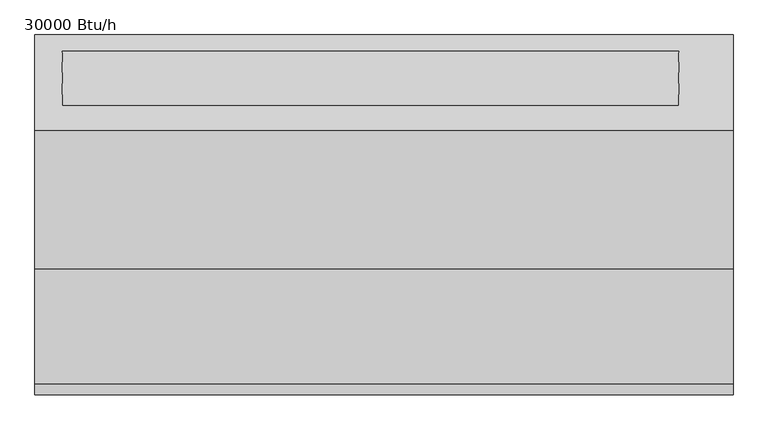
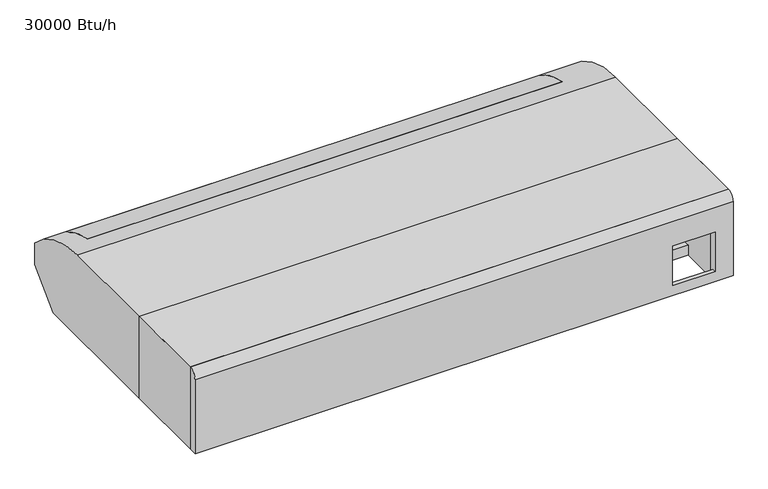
"""IFC4 building model written with IfcOpenShell, lengths in millimetres: proxy geometry, Lennox-VRF-Ceiling_Floor_Mount-VCFA-2P_Series : 30000 Btu/h."""

from ifc_helpers import new_model, si_unit, point, frame, frame_2d, origin, place, context, project, spatial, polyline, circle_curve, trimmed, segment, composite_curve, outline, extrude, faceted_brep, source, transform, mapped, element, save
from ifc_brep_helpers import plane_surface, cylinder_surface, advanced_brep


def proxy_30000_btu_h_688ba176(model_context):
    return source(origin(), model_context, "Body", "SolidModel", [
        faceted_brep([(640.0, 230.0, 206.0), (640.0, 20.0, 206.0), (640.0, 20.0, 0.0), (640.0, 230.0, 0.0), (-640.0, 230.0, 206.0), (-640.0, 230.0, 0.0), (-640.0, 20.0, 0.0), (-640.0, 20.0, 206.0), (497.0, 20.0, 0.0), (497.0, 20.0, 125.0), (597.0, 20.0, 125.0), (597.0, 20.0, 0.0), (597.0, 110.0, 0.0), (497.0, 110.0, 0.0), (497.0, 184.8703415, 125.0), (597.0, 184.8703415, 125.0), (597.0, 110.0, 25.0), (497.0, 110.0, 25.0), (497.0, 184.8703415, 25.0), (597.0, 184.8703415, 25.0)], [[[0, 1, 2, 3]], [[4, 5, 6, 7]], [[1, 0, 4, 7]], [[2, 1, 7, 6, 8, 9, 10, 11]], [[3, 2, 11, 12, 13, 8, 6, 5]], [[0, 3, 5, 4]], [[10, 9, 14, 15]], [[13, 12, 16, 17]], [[14, 9, 8, 13, 17, 18]], [[10, 15, 19, 16, 12, 11]], [[15, 14, 18, 19]], [[19, 18, 17, 16]]]),
        extrude(outline(composite_curve([segment(trimmed(circle_curve(frame_2d((97.0, 582.0)), 7.9375), [point((97.0, 574.0625))], [point((97.0, 589.9375))], False, "CARTESIAN"), True, "CONTINUOUS"), segment(trimmed(circle_curve(frame_2d((97.0, 582.0)), 7.9375), [point((97.0, 589.9375))], [point((97.0, 574.0625))], False, "CARTESIAN"), True, "CONTINUOUS")], self_intersect=False)), frame((0.0, 134.0, 0.0), z_axis=(0.0, 1.0, 0.0), x_axis=(0.0, 0.0, 1.0)), (0.0, 0.0, 1.0), 90.0),
        extrude(outline(composite_curve([segment(trimmed(circle_curve(frame_2d((64.0, 579.0)), 4.7625), [point((64.0, 583.7625))], [point((64.0, 574.2375))], False, "CARTESIAN"), True, "CONTINUOUS"), segment(trimmed(circle_curve(frame_2d((64.0, 579.0)), 4.7625), [point((64.0, 574.2375))], [point((64.0, 583.7625))], False, "CARTESIAN"), True, "CONTINUOUS")], self_intersect=False)), frame((0.0, 98.0, 0.0), z_axis=(0.0, 1.0, 0.0), x_axis=(0.0, 0.0, 1.0)), (0.0, 0.0, 1.0), 125.0),
        advanced_brep(
        [(640.0, 0.0, 186.0), (640.0, 0.0, 0.0), (640.0, 585.0, 0.0), (640.0, 660.0, 76.0), (640.0, 660.0, 130.0), (640.0, 484.7744311, 206.0), (640.0, 20.0, 206.0), (-640.0, 0.0, 186.0), (-640.0, 20.0, 206.0), (-640.0, 484.7744311, 206.0), (-640.0, 660.0, 130.0), (-640.0, 660.0, 76.0), (-640.0, 585.0, 0.0), (-640.0, 0.0, 0.0), (497.0, 0.0, 125.0), (597.0, 0.0, 125.0), (597.0, 0.0, 25.0), (497.0, 0.0, 25.0), (597.0, 110.0, 0.0), (497.0, 110.0, 0.0), (497.0, 10.0, 0.0), (597.0, 10.0, 0.0), (-590.0, 630.0, 157.0746821), (540.0, 630.0, 157.0746821), (540.0, 530.0, 201.700335), (-590.0, 530.0, 201.700335), (540.0, 630.0, 103.0), (-590.0, 630.0, 103.0), (-590.0, 530.0, 103.0), (540.0, 530.0, 103.0), (597.0, 184.8703415, 125.0), (497.0, 184.8703415, 125.0), (497.0, 184.8703415, 25.0), (597.0, 184.8703415, 25.0), (497.0, 10.0, 25.0), (497.0, 110.0, 25.0), (597.0, 10.0, 25.0), (597.0, 110.0, 25.0)],
        [
            (0, 1),
            (1, 2),
            (2, 3),
            (3, 4),
            (4, 5, circle_curve(frame((640.0, 484.7744311, -34.0), z_axis=(1.0, 0.0, 0.0), x_axis=(0.0, 1.0, 0.0)), 240.0)),
            (5, 6),
            (6, 0, circle_curve(frame((640.0, 20.0, 186.0), z_axis=(1.0, 0.0, 0.0), x_axis=(0.0, 1.0, 0.0)), 20.0)),
            (7, 8, circle_curve(frame((-640.0, 20.0, 186.0), z_axis=(-1.0, 0.0, 0.0), x_axis=(0.0, 1.0, 0.0)), 20.0)),
            (8, 9),
            (9, 10, circle_curve(frame((-640.0, 484.7744311, -34.0), z_axis=(-1.0, 0.0, 0.0), x_axis=(0.0, 1.0, 0.0)), 240.0)),
            (10, 11),
            (11, 12),
            (12, 13),
            (13, 7),
            (0, 7),
            (13, 1),
            (14, 15),
            (15, 16),
            (16, 17),
            (17, 14),
            (12, 2),
            (18, 19),
            (19, 20),
            (20, 21),
            (21, 18),
            (11, 3),
            (10, 4),
            (9, 5),
            (22, 23),
            (23, 24, circle_curve(frame((540.0, 484.7744311, -34.0), z_axis=(1.0, 0.0, 0.0), x_axis=(0.0, 1.0, 0.0)), 240.0)),
            (24, 25),
            (25, 22, circle_curve(frame((-590.0, 484.7744311, -34.0), z_axis=(-1.0, 0.0, 0.0), x_axis=(0.0, 1.0, 0.0)), 240.0)),
            (8, 6),
            (26, 27),
            (27, 28),
            (28, 29),
            (29, 26),
            (26, 23),
            (22, 27),
            (25, 28),
            (24, 29),
            (30, 31),
            (31, 32),
            (32, 33),
            (33, 30),
            (14, 31),
            (30, 15),
            (17, 34),
            (34, 20),
            (19, 35),
            (35, 32),
            (16, 36),
            (36, 34),
            (35, 37),
            (37, 33),
            (37, 18),
            (21, 36),
        ],
        [
            plane_surface(frame((640.0, 0.0, 0.0), z_axis=(1.0, 0.0, 0.0), x_axis=(0.0, 0.0, -1.0))),
            plane_surface(frame((-640.0, 0.0, 0.0), z_axis=(-1.0, 0.0, 0.0), x_axis=(0.0, 0.0, 1.0))),
            plane_surface(frame((640.0, 0.0, 186.0), z_axis=(0.0, -1.0, 0.0), x_axis=(-1.0, 0.0, 0.0))),
            plane_surface(frame((640.0, 0.0, 0.0), z_axis=(0.0, 0.0, -1.0), x_axis=(-1.0, 0.0, 0.0))),
            plane_surface(frame((640.0, 585.0, 0.0), z_axis=(0.0, 0.7117739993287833, -0.7024085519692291), x_axis=(-1.0, 0.0, 0.0))),
            plane_surface(frame((640.0, 660.0, 76.0), z_axis=(0.0, 1.0, 0.0), x_axis=(-1.0, 0.0, 0.0))),
            cylinder_surface(frame((-640.0, 484.7744311, -34.0), z_axis=(1.0, 0.0, 0.0), x_axis=(0.0, 1.0, 0.0)), 240.0),
            plane_surface(frame((640.0, 484.7744311, 206.0), z_axis=(0.0, 0.0, 1.0), x_axis=(-1.0, 0.0, 0.0))),
            cylinder_surface(frame((-640.0, 20.0, 186.0), z_axis=(1.0, 0.0, 0.0), x_axis=(0.0, 1.0, 0.0)), 20.0),
            plane_surface(frame((-590.0, 630.0, 103.0), z_axis=(0.0, 0.0, 1.0), x_axis=(1.0, 0.0, 0.0))),
            plane_surface(frame((540.0, 630.0, 206.0), z_axis=(0.0, -1.0, 0.0), x_axis=(0.0, 0.0, -1.0))),
            plane_surface(frame((-590.0, 630.0, 206.0), z_axis=(1.0, 0.0, 0.0), x_axis=(0.0, 0.0, -1.0))),
            plane_surface(frame((-590.0, 530.0, 206.0), z_axis=(0.0, 1.0, 0.0), x_axis=(0.0, 0.0, -1.0))),
            plane_surface(frame((540.0, 530.0, 206.0), z_axis=(-1.0, 0.0, 0.0), x_axis=(0.0, 0.0, -1.0))),
            plane_surface(frame((497.0, 184.8703415, 125.0), z_axis=(0.0, -1.0, 0.0), x_axis=(1.0, 0.0, 0.0))),
            plane_surface(frame((597.0, 0.0, 125.0), z_axis=(0.0, 0.0, -1.0), x_axis=(0.0, 1.0, 0.0))),
            plane_surface(frame((497.0, 0.0, 125.0), z_axis=(1.0, 0.0, 0.0), x_axis=(0.0, 1.0, 0.0))),
            plane_surface(frame((497.0, 0.0, 25.0), z_axis=(0.0, 0.0, 1.0), x_axis=(0.0, 1.0, 0.0))),
            plane_surface(frame((597.0, 0.0, 25.0), z_axis=(-1.0, 0.0, 0.0), x_axis=(0.0, 1.0, 0.0))),
            plane_surface(frame((597.0, 110.0, 125.0), z_axis=(0.0, -1.0, 0.0), x_axis=(0.0, 0.0, -1.0))),
            plane_surface(frame((497.0, 10.0, 125.0), z_axis=(0.0, 1.0, 0.0), x_axis=(0.0, 0.0, -1.0))),
        ],
        [
            (0, [[1, 2, 3, 4, 5, 6, 7]]),
            (1, [[8, 9, 10, 11, 12, 13, 14]]),
            (2, [[-1, 15, -14, 16], [17, 18, 19, 20]]),
            (3, [[-2, -16, -13, 21], [22, 23, 24, 25]]),
            (4, [[-3, -21, -12, 26]]),
            (5, [[-4, -26, -11, 27]]),
            (6, [[-5, -27, -10, 28], [29, 30, 31, 32]]),
            (7, [[-6, -28, -9, 33]]),
            (8, [[-7, -33, -8, -15]]),
            (9, [[34, 35, 36, 37]]),
            (10, [[-34, 38, -29, 39]]),
            (11, [[-35, -39, -32, 40]]),
            (12, [[-36, -40, -31, 41]]),
            (13, [[-37, -41, -30, -38]]),
            (14, [[42, 43, 44, 45]]),
            (15, [[46, -42, 47, -17]]),
            (16, [[-43, -46, -20, 48, 49, -23, 50, 51]]),
            (17, [[-19, 52, 53, -48]]),
            (17, [[-44, -51, 54, 55]]),
            (18, [[-45, -55, 56, -25, 57, -52, -18, -47]]),
            (19, [[-50, -22, -56, -54]]),
            (20, [[-49, -53, -57, -24]]),
        ],
    ),
        extrude(outline(composite_curve([segment(trimmed(circle_curve(frame_2d((484.7744311, -34.0)), 240.0), [point((530.0, 201.700335))], [point((630.0, 157.0746821))], False, "CARTESIAN"), True, "CONTINUOUS"), segment(polyline([(630.0, 157.0746821), (630.0, 103.0), (530.0, 103.0), (530.0, 201.700335)]), True, "CONTINUOUS")], self_intersect=False)), frame((-590.0, 0.0, 0.0), z_axis=(1.0, 0.0, 0.0), x_axis=(0.0, 1.0, 0.0)), (0.0, 0.0, 1.0), 1130.0),
    ])


if __name__ == "__main__":
    model = new_model("IFC4")
    model_context = context("Model", 3, world=origin())
    ifc_project = project(units=[si_unit("LENGTHUNIT", "METRE", prefix="MILLI")], contexts=[model_context])
    site = spatial("IfcSite", under=ifc_project)
    building = spatial("IfcBuilding", under=site)
    placement = place(None, origin())
    proxy_30000_btu_h_shape = proxy_30000_btu_h_688ba176(model_context)
    element("IfcBuildingElementProxy", 1, Name="Lennox-VRF-Ceiling_Floor_Mount-VCFA-2P_Series : 30000 Btu/h", ObjectType="Lennox-VRF-Ceiling_Floor_Mount-VCFA-2P_Series : 30000 Btu/h", at=placement, inside=building, context=model_context, shape_type="MappedRepresentation", body=[
        mapped(proxy_30000_btu_h_shape, transform((0.0, 0.0, 0.0), x_axis=(1.0, 0.0, 0.0), y_axis=(0.0, 1.0, 0.0), z_axis=(0.0, 0.0, 1.0))),
    ])
    save(model, "model.ifc")
